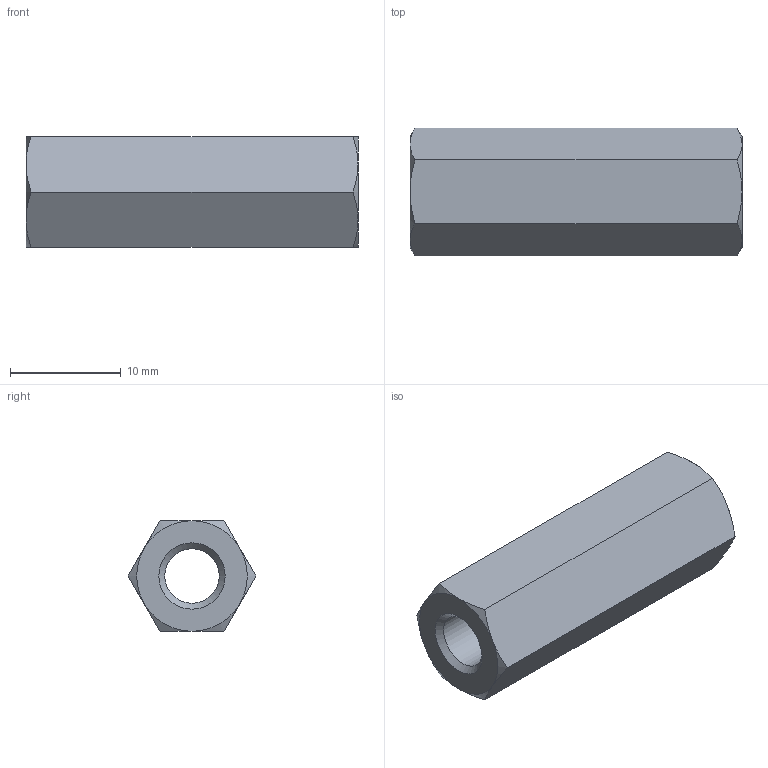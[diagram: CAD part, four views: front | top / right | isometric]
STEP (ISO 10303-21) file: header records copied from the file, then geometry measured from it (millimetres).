
FILE_DESCRIPTION( ( 'STEP AP203' ), '1' );
FILE_NAME( 'C:/Temp/Ganter_Step_05_03_2020/data/3_2/gn6220/gn6220_st/Spacer GN 6220-ST-M6-30-A.stp', '2020-03-13T05:42:29', ( 'License CC BY-ND 4.0' ), ( 'CADENAS' ), ' ', 'PARTsolutions', ' ' );
FILE_SCHEMA( ( 'CONFIG_CONTROL_DESIGN' ) );
Length unit declared in the file: millimetre
Products named in the file (1): _Spacer GN 6220-ST-M6-30-A
Bounding box: 30 x 11.55 x 10 mm (x, y, z)
Volume: 2021.4 mm3; surface area: 1620.7 mm2
Topology: 1 solids, 1 shells, 23 faces, 49 edges, 28 vertices
Faces by surface type: cone 14, plane 8, cylinder 1
Full cylindrical faces by diameter (mm): 4.917 x1
Entity records: 712 total; most frequent: CARTESIAN_POINT 218, ORIENTED_EDGE 92, DIRECTION 86, EDGE_CURVE 46, AXIS2_PLACEMENT_3D 40, EDGE_LOOP 28, VERTEX_POINT 28, FACE_OUTER_BOUND 24
